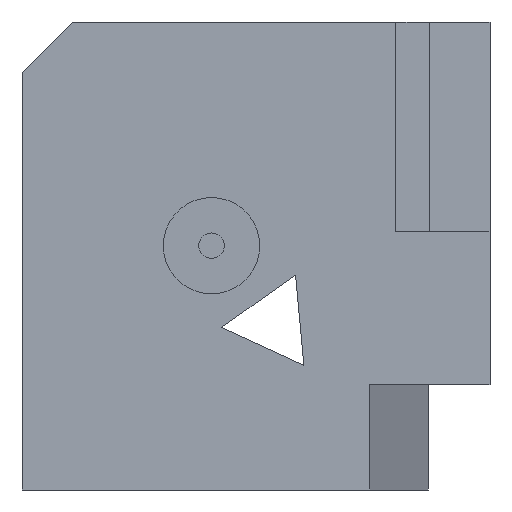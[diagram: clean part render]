
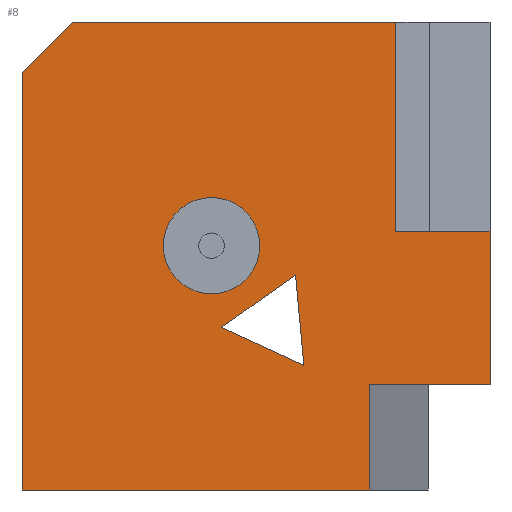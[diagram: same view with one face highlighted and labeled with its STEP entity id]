
A CAD part, left-side view. The second image highlights one B-rep face of the part: STEP entity #8.
In plain terms, the highlighted planar face has unit normal (-1, 0, 0).
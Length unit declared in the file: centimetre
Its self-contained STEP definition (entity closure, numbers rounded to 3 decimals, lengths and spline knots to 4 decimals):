
#7 = CARTESIAN_POINT ( 'NONE',  ( 0., 892.761, 1000. ) ) ;
#8 = ADVANCED_FACE ( 'NONE', ( #1009, #1003, #705 ), #184, .F. ) ;
#15 = VECTOR ( 'NONE', #990, 100. ) ;
#48 = EDGE_CURVE ( 'NONE', #1090, #995, #803, .T. ) ;
#57 = EDGE_CURVE ( 'NONE', #430, #98, #260, .T. ) ;
#78 = DIRECTION ( 'NONE',  ( 0., 0., -1. ) ) ;
#98 = VERTEX_POINT ( 'NONE', #346 ) ;
#100 = EDGE_CURVE ( 'NONE', #1080, #98, #1153, .T. ) ;
#111 = CARTESIAN_POINT ( 'NONE',  ( 0., 1000., 0. ) ) ;
#125 = DIRECTION ( 'NONE',  ( 0., 1., 0. ) ) ;
#132 = DIRECTION ( 'NONE',  ( 0., 0., -1. ) ) ;
#141 = VERTEX_POINT ( 'NONE', #366 ) ;
#144 = DIRECTION ( 'NONE',  ( 0., -1., 0. ) ) ;
#163 = VECTOR ( 'NONE', #125, 100. ) ;
#170 = CIRCLE ( 'NONE', #612, 102.9377 ) ;
#184 = PLANE ( 'NONE',  #1273 ) ;
#200 = ORIENTED_EDGE ( 'NONE', *, *, #692, .F. ) ;
#204 = LINE ( 'NONE', #111, #432 ) ;
#206 = CARTESIAN_POINT ( 'NONE',  ( 0., 256.6095, 224.4353 ) ) ;
#210 = DIRECTION ( 'NONE',  ( 0., -0.817, 0.577 ) ) ;
#214 = LINE ( 'NONE', #7, #843 ) ;
#231 = EDGE_CURVE ( 'NONE', #1078, #979, #790, .T. ) ;
#232 = VERTEX_POINT ( 'NONE', #595 ) ;
#236 = DIRECTION ( 'NONE',  ( 0., 0., 1. ) ) ;
#238 = CARTESIAN_POINT ( 'NONE',  ( 0., 573.4336, 347.561 ) ) ;
#249 = ORIENTED_EDGE ( 'NONE', *, *, #48, .T. ) ;
#257 = VERTEX_POINT ( 'NONE', #1239 ) ;
#260 = LINE ( 'NONE', #561, #345 ) ;
#273 = EDGE_CURVE ( 'NONE', #979, #1075, #630, .T. ) ;
#283 = ORIENTED_EDGE ( 'NONE', *, *, #100, .F. ) ;
#289 = VECTOR ( 'NONE', #429, 100. ) ;
#301 = LINE ( 'NONE', #708, #486 ) ;
#309 = CARTESIAN_POINT ( 'NONE',  ( 0., 256.6095, 224.4353 ) ) ;
#319 = CARTESIAN_POINT ( 'NONE',  ( 0., 0., 1000. ) ) ;
#333 = ORIENTED_EDGE ( 'NONE', *, *, #808, .F. ) ;
#341 = ORIENTED_EDGE ( 'NONE', *, *, #753, .T. ) ;
#345 = VECTOR ( 'NONE', #236, 100. ) ;
#346 = CARTESIAN_POINT ( 'NONE',  ( 0., 201.3591, 1000. ) ) ;
#354 = ORIENTED_EDGE ( 'NONE', *, *, #273, .T. ) ;
#361 = ORIENTED_EDGE ( 'NONE', *, *, #584, .T. ) ;
#366 = CARTESIAN_POINT ( 'NONE',  ( 0., 595.0134, 419.0927 ) ) ;
#368 = ORIENTED_EDGE ( 'NONE', *, *, #796, .T. ) ;
#375 = DIRECTION ( 'NONE',  ( -1., 0., 0. ) ) ;
#381 = CARTESIAN_POINT ( 'NONE',  ( 0., 0., 552.7142 ) ) ;
#387 = CARTESIAN_POINT ( 'NONE',  ( 0., 595.0134, 624.9682 ) ) ;
#412 = DIRECTION ( 'NONE',  ( 1., 0., 0. ) ) ;
#423 = LINE ( 'NONE', #319, #1045 ) ;
#429 = DIRECTION ( 'NONE',  ( 0., 0., -1. ) ) ;
#430 = VERTEX_POINT ( 'NONE', #1146 ) ;
#432 = VECTOR ( 'NONE', #523, 100. ) ;
#438 = ORIENTED_EDGE ( 'NONE', *, *, #57, .T. ) ;
#455 = EDGE_CURVE ( 'NONE', #257, #634, #1049, .T. ) ;
#456 = VERTEX_POINT ( 'NONE', #647 ) ;
#476 = CARTESIAN_POINT ( 'NONE',  ( 0., 595.0134, 522.0304 ) ) ;
#486 = VECTOR ( 'NONE', #575, 100. ) ;
#488 = EDGE_LOOP ( 'NONE', ( #200, #844 ) ) ;
#516 = CARTESIAN_POINT ( 'NONE',  ( 0., 1000., 1000. ) ) ;
#523 = DIRECTION ( 'NONE',  ( 0., -1., 0. ) ) ;
#539 = CARTESIAN_POINT ( 'NONE',  ( 0., 397.7093, 266.5731 ) ) ;
#541 = EDGE_CURVE ( 'NONE', #456, #257, #423, .T. ) ;
#561 = CARTESIAN_POINT ( 'NONE',  ( 0., 201.3591, 552.7142 ) ) ;
#575 = DIRECTION ( 'NONE',  ( 0., -0.092, -0.996 ) ) ;
#584 = EDGE_CURVE ( 'NONE', #995, #232, #204, .T. ) ;
#590 = DIRECTION ( 'NONE',  ( -1., 0., 0. ) ) ;
#595 = CARTESIAN_POINT ( 'NONE',  ( 0., 256.6095, 0. ) ) ;
#612 = AXIS2_PLACEMENT_3D ( 'NONE', #476, #590, #877 ) ;
#630 = LINE ( 'NONE', #1235, #1177 ) ;
#634 = VERTEX_POINT ( 'NONE', #309 ) ;
#646 = VERTEX_POINT ( 'NONE', #387 ) ;
#647 = CARTESIAN_POINT ( 'NONE',  ( 0., 0., 552.7142 ) ) ;
#661 = CARTESIAN_POINT ( 'NONE',  ( 0., 256.6095, 224.4353 ) ) ;
#676 = DIRECTION ( 'NONE',  ( 0., -1., 0. ) ) ;
#692 = EDGE_CURVE ( 'NONE', #646, #141, #1132, .T. ) ;
#695 = LINE ( 'NONE', #381, #906 ) ;
#705 = FACE_OUTER_BOUND ( 'NONE', #938, .T. ) ;
#708 = CARTESIAN_POINT ( 'NONE',  ( 0., 397.7093, 266.5731 ) ) ;
#711 = DIRECTION ( 'NONE',  ( 0., 0.707, -0.707 ) ) ;
#750 = VECTOR ( 'NONE', #132, 100. ) ;
#753 = EDGE_CURVE ( 'NONE', #1075, #1078, #301, .T. ) ;
#755 = EDGE_LOOP ( 'NONE', ( #880, #354, #341 ) ) ;
#756 = VECTOR ( 'NONE', #144, 100. ) ;
#790 = LINE ( 'NONE', #1291, #15 ) ;
#796 = EDGE_CURVE ( 'NONE', #1080, #1090, #214, .T. ) ;
#803 = LINE ( 'NONE', #516, #750 ) ;
#808 = EDGE_CURVE ( 'NONE', #634, #232, #1125, .T. ) ;
#829 = AXIS2_PLACEMENT_3D ( 'NONE', #1282, #375, #977 ) ;
#841 = CARTESIAN_POINT ( 'NONE',  ( 0., 415.4338, 459.2488 ) ) ;
#843 = VECTOR ( 'NONE', #711, 100. ) ;
#844 = ORIENTED_EDGE ( 'NONE', *, *, #1208, .F. ) ;
#877 = DIRECTION ( 'NONE',  ( 0., 0., 1. ) ) ;
#880 = ORIENTED_EDGE ( 'NONE', *, *, #231, .T. ) ;
#896 = ORIENTED_EDGE ( 'NONE', *, *, #455, .F. ) ;
#906 = VECTOR ( 'NONE', #676, 100. ) ;
#938 = EDGE_LOOP ( 'NONE', ( #1206, #438, #283, #368, #249, #361, #333, #896, #1038 ) ) ;
#946 = CARTESIAN_POINT ( 'NONE',  ( 0., 892.761, 1000. ) ) ;
#953 = CARTESIAN_POINT ( 'NONE',  ( 0., 1000., 1000. ) ) ;
#977 = DIRECTION ( 'NONE',  ( 0., 0., 1. ) ) ;
#979 = VERTEX_POINT ( 'NONE', #238 ) ;
#990 = DIRECTION ( 'NONE',  ( 0., 0.908, 0.419 ) ) ;
#995 = VERTEX_POINT ( 'NONE', #1046 ) ;
#1003 = FACE_BOUND ( 'NONE', #488, .T. ) ;
#1009 = FACE_BOUND ( 'NONE', #755, .T. ) ;
#1025 = CARTESIAN_POINT ( 'NONE',  ( 0., 1000., 1000. ) ) ;
#1038 = ORIENTED_EDGE ( 'NONE', *, *, #541, .F. ) ;
#1045 = VECTOR ( 'NONE', #1229, 100. ) ;
#1046 = CARTESIAN_POINT ( 'NONE',  ( 0., 1000., 0. ) ) ;
#1049 = LINE ( 'NONE', #661, #163 ) ;
#1051 = CARTESIAN_POINT ( 'NONE',  ( 0., 1000., 892.761 ) ) ;
#1075 = VERTEX_POINT ( 'NONE', #841 ) ;
#1078 = VERTEX_POINT ( 'NONE', #539 ) ;
#1080 = VERTEX_POINT ( 'NONE', #946 ) ;
#1090 = VERTEX_POINT ( 'NONE', #1051 ) ;
#1105 = EDGE_CURVE ( 'NONE', #430, #456, #695, .T. ) ;
#1125 = LINE ( 'NONE', #206, #289 ) ;
#1132 = CIRCLE ( 'NONE', #829, 102.9377 ) ;
#1146 = CARTESIAN_POINT ( 'NONE',  ( 0., 201.3591, 552.7142 ) ) ;
#1153 = LINE ( 'NONE', #953, #756 ) ;
#1177 = VECTOR ( 'NONE', #210, 100. ) ;
#1206 = ORIENTED_EDGE ( 'NONE', *, *, #1105, .F. ) ;
#1208 = EDGE_CURVE ( 'NONE', #141, #646, #170, .T. ) ;
#1229 = DIRECTION ( 'NONE',  ( 0., 0., -1. ) ) ;
#1235 = CARTESIAN_POINT ( 'NONE',  ( 0., 415.4338, 459.2488 ) ) ;
#1239 = CARTESIAN_POINT ( 'NONE',  ( 0., 0., 224.4353 ) ) ;
#1273 = AXIS2_PLACEMENT_3D ( 'NONE', #1025, #412, #78 ) ;
#1282 = CARTESIAN_POINT ( 'NONE',  ( 0., 595.0134, 522.0304 ) ) ;
#1291 = CARTESIAN_POINT ( 'NONE',  ( 0., 573.4336, 347.561 ) ) ;
